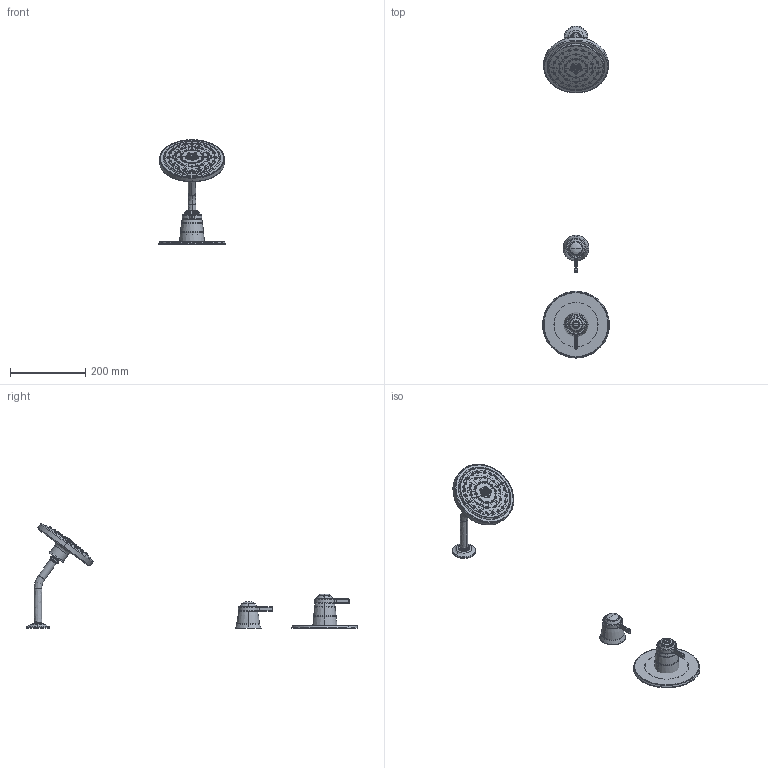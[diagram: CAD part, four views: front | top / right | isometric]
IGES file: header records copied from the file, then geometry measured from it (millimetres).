
Start section:  PTC IGES file: sku_ts3712.igs
Global section: file name: sku_ts3712.igs; native system: Pro/ENGINEER by Parametric Technology Corporation; preprocessor: 2006460; author: 9dutterb; organization: Unknown; date: 20071112.165014; units: inch
Bounding box: 177.42 x 882.45 x 278.09 mm (x, y, z)
Surface area: 302058.3 mm2 (no closed solid volume)
Topology: 0 solids, 0 shells, 455 faces, 2388 edges, 2382 vertices
Faces by surface type: revolution 377, bspline 78
